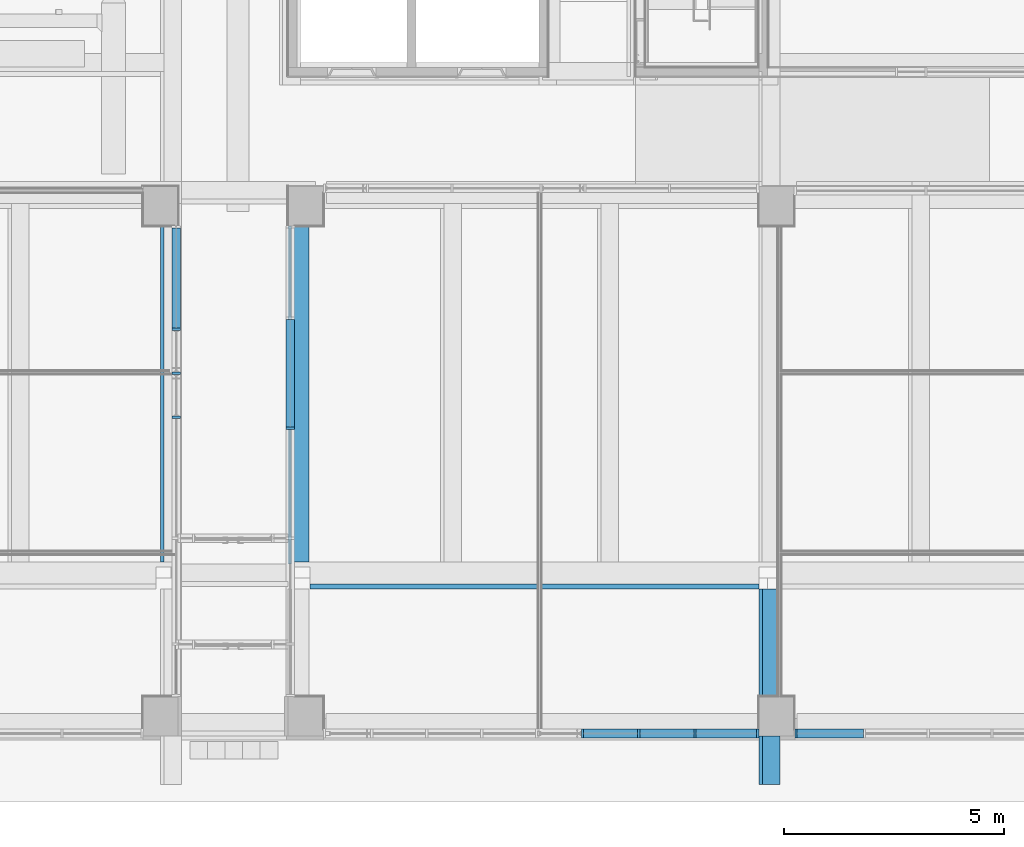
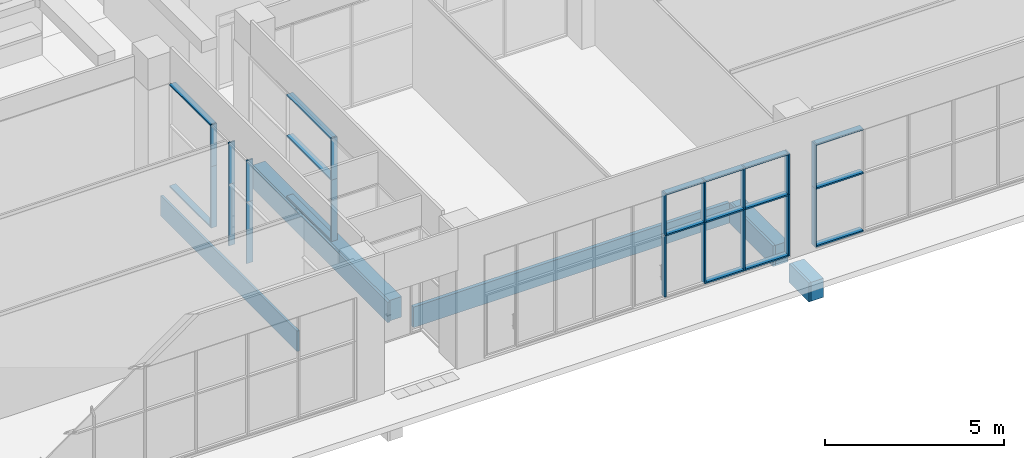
# One storey, part 6 of 100: 34 members, 8 beams, 4 elements without a shape of their own.
"""IFC2X3 building model written with IfcOpenShell, lengths in millimetres."""

from ifc_helpers import new_model, entity, si_unit, converted_unit, derived_unit, direction, frame, frame_2d, origin, origin_2d_with_axis, place, context, subcontext, project, spatial, rectangle, extrude, source, transform, mapped, material, material_list, type_object, type_shapes, element, aggregate, save


model = new_model("IFC2X3")

# Units and contexts
model_context = context("Model", 3, precision=0.01, world=origin(), true_north=direction((6.123031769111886e-17, 1.0)))
body_context = subcontext(model_context, "Body", "Model", "MODEL_VIEW")
ifc_project = project(units=[si_unit("LENGTHUNIT", "METRE", prefix="MILLI"), si_unit("AREAUNIT", "SQUARE_METRE"), si_unit("VOLUMEUNIT", "CUBIC_METRE"), converted_unit("PLANEANGLEUNIT", "DEGREE", entity("IfcRatioMeasure", 0.017453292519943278), si_unit("PLANEANGLEUNIT", "RADIAN"), dimensions=[0, 0, 0, 0, 0, 0, 0]), si_unit("MASSUNIT", "GRAM", prefix="KILO"), derived_unit("MASSDENSITYUNIT", [(si_unit("MASSUNIT", "GRAM", prefix="KILO"), 1), (si_unit("LENGTHUNIT", "METRE"), -3)]), derived_unit("MOMENTOFINERTIAUNIT", [(si_unit("LENGTHUNIT", "METRE"), 4)]), si_unit("TIMEUNIT", "SECOND"), si_unit("FREQUENCYUNIT", "HERTZ"), si_unit("THERMODYNAMICTEMPERATUREUNIT", "DEGREE_CELSIUS"), derived_unit("THERMALTRANSMITTANCEUNIT", [(si_unit("MASSUNIT", "GRAM", prefix="KILO"), 1), (si_unit("THERMODYNAMICTEMPERATUREUNIT", "KELVIN"), -1), (si_unit("TIMEUNIT", "SECOND"), -3)]), derived_unit("VOLUMETRICFLOWRATEUNIT", [(si_unit("LENGTHUNIT", "METRE"), 3), (si_unit("TIMEUNIT", "SECOND"), -1)]), derived_unit("MASSFLOWRATEUNIT", [(si_unit("MASSUNIT", "GRAM", prefix="KILO"), 1), (si_unit("TIMEUNIT", "SECOND"), -1)]), derived_unit("ROTATIONALFREQUENCYUNIT", [(si_unit("TIMEUNIT", "SECOND"), -1)]), si_unit("ELECTRICCURRENTUNIT", "AMPERE"), si_unit("ELECTRICVOLTAGEUNIT", "VOLT"), si_unit("POWERUNIT", "WATT"), si_unit("FORCEUNIT", "NEWTON", prefix="KILO"), si_unit("ILLUMINANCEUNIT", "LUX"), si_unit("LUMINOUSFLUXUNIT", "LUMEN"), si_unit("LUMINOUSINTENSITYUNIT", "CANDELA"), derived_unit("USERDEFINED", [(si_unit("MASSUNIT", "GRAM", prefix="KILO"), -1), (si_unit("LENGTHUNIT", "METRE"), -2), (si_unit("TIMEUNIT", "SECOND"), 3), (si_unit("LUMINOUSFLUXUNIT", "LUMEN"), 1)]), derived_unit("SOUNDPOWERUNIT", [(si_unit("MASSUNIT", "GRAM", prefix="KILO"), 1), (si_unit("LENGTHUNIT", "METRE"), 2), (si_unit("TIMEUNIT", "SECOND"), -3)]), derived_unit("SOUNDPRESSUREUNIT", [(si_unit("MASSUNIT", "GRAM", prefix="KILO"), 1), (si_unit("LENGTHUNIT", "METRE"), -1), (si_unit("TIMEUNIT", "SECOND"), -2)]), derived_unit("LINEARVELOCITYUNIT", [(si_unit("LENGTHUNIT", "METRE"), 1), (si_unit("TIMEUNIT", "SECOND"), -1)]), si_unit("PRESSUREUNIT", "PASCAL"), derived_unit("USERDEFINED", [(si_unit("LENGTHUNIT", "METRE"), -2), (si_unit("MASSUNIT", "GRAM", prefix="KILO"), 1), (si_unit("TIMEUNIT", "SECOND"), -2)]), derived_unit("LINEARFORCEUNIT", [(si_unit("MASSUNIT", "GRAM", prefix="KILO"), 1), (si_unit("LENGTHUNIT", "METRE"), 1), (si_unit("TIMEUNIT", "SECOND"), -2), (si_unit("LENGTHUNIT", "METRE"), -1)]), derived_unit("PLANARFORCEUNIT", [(si_unit("MASSUNIT", "GRAM", prefix="KILO"), 1), (si_unit("LENGTHUNIT", "METRE"), 1), (si_unit("TIMEUNIT", "SECOND"), -2), (si_unit("LENGTHUNIT", "METRE"), -2)])], contexts=[model_context])

# Site, building, storey
site_placement = place(None, frame((-14167.972527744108, -657.2125860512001, 0.0)))
site = spatial("IfcSite", under=ifc_project, at=site_placement, Name="Default", CompositionType="ELEMENT")
building_placement = place(site_placement, origin())
building = spatial("IfcBuilding", under=site, at=building_placement, Name="Sample Building", CompositionType="ELEMENT")
storey_placement = place(building_placement, origin())
storey = spatial("IfcBuildingStorey", under=building, at=storey_placement, Name="지상 1층", CompositionType="ELEMENT", Elevation=0.0)

# Curtain wall, members
curtain_wall_type = type_object("IfcCurtainWallType", Name="커튼월:CW112-스테인리스 스틸 커튼월", PredefinedType="NOTDEFINED")
curtain_wall_1_placement = place(storey_placement, origin())
curtain_wall_1 = element("IfcCurtainWall", 1, at=curtain_wall_1_placement, inside=storey, type_object=curtain_wall_type, Name="커튼월:CW112-스테인리스 스틸 커튼월", ObjectType="커튼월:CW112-스테인리스 스틸 커튼월")
ifc_material_1 = material(Name="<Unnamed>")
member_type_1 = type_object("IfcMemberType", Name="직사각형 멀리언:CW200-직사각형 멀리언 50x200mm", PredefinedType="MULLION", material=ifc_material_1)
shared_shape_1 = source(origin(), body_context, "Body", "SweptSolid", [
    extrude(rectangle(XDim=200.0, YDim=50.0, at=origin_2d_with_axis()), frame((0.0, 0.0, -2100.0), z_axis=(0.0, 0.0, 1.0), x_axis=(0.0, -1.0, 0.0)), (0.0, 0.0, 1.0), 2100.0),
])
type_shapes(member_type_1, [shared_shape_1])
member_1_placement = place(curtain_wall_1_placement, frame((36757.972491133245, 619.7122951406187, 80.0), z_axis=(0.0, 0.0, -1.0), x_axis=(1.0, 0.0, 0.0)))
member_1 = element("IfcMember", 2, at=member_1_placement, type_object=member_type_1, material=ifc_material_1, Name="직사각형 멀리언:CW200-직사각형 멀리언 50x200mm", ObjectType="직사각형 멀리언:CW200-직사각형 멀리언 50x200mm", context=body_context, shape_type="MappedRepresentation", body=[
    mapped(shared_shape_1, transform((0.0, 0.0, 0.0), scale=1.0)),
])
member_2_placement = place(curtain_wall_1_placement, frame((38037.972491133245, 619.7122951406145, 80.0), z_axis=(0.0, 0.0, -1.0), x_axis=(1.0, 0.0, 0.0)))
member_2 = element("IfcMember", 3, at=member_2_placement, type_object=member_type_1, material=ifc_material_1, Name="직사각형 멀리언:CW200-직사각형 멀리언 50x200mm", ObjectType="직사각형 멀리언:CW200-직사각형 멀리언 50x200mm", context=body_context, shape_type="MappedRepresentation", body=[
    mapped(shared_shape_1, transform((0.0, 0.0, 0.0), scale=1.0)),
])
member_3_placement = place(curtain_wall_1_placement, frame((39317.972491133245, 619.7122951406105, 80.0), z_axis=(0.0, 0.0, -1.0), x_axis=(1.0, 0.0, 0.0)))
member_3 = element("IfcMember", 4, at=member_3_placement, type_object=member_type_1, material=ifc_material_1, Name="직사각형 멀리언:CW200-직사각형 멀리언 50x200mm", ObjectType="직사각형 멀리언:CW200-직사각형 멀리언 50x200mm", context=body_context, shape_type="MappedRepresentation", body=[
    mapped(shared_shape_1, transform((0.0, 0.0, 0.0), scale=1.0)),
])

curtain_wall_2_placement = place(storey_placement, origin())
curtain_wall_2 = element("IfcCurtainWall", 5, at=curtain_wall_2_placement, inside=storey, type_object=curtain_wall_type, Name="커튼월:CW112-스테인리스 스틸 커튼월", ObjectType="커튼월:CW112-스테인리스 스틸 커튼월")
member_4_placement = place(curtain_wall_2_placement, frame((27522.95514177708, 9807.21233073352, 80.0), z_axis=(0.0, 0.0, -1.0), x_axis=(0.0, 1.0, 0.0)))
member_4 = element("IfcMember", 6, at=member_4_placement, type_object=member_type_1, material=ifc_material_1, Name="직사각형 멀리언:CW200-직사각형 멀리언 50x200mm", ObjectType="직사각형 멀리언:CW200-직사각형 멀리언 50x200mm", context=body_context, shape_type="MappedRepresentation", body=[
    mapped(shared_shape_1, transform((0.0, 0.0, 0.0), scale=1.0)),
])
member_5_placement = place(curtain_wall_2_placement, frame((27522.955141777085, 7807.212330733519, 80.0), z_axis=(0.0, 0.0, -1.0), x_axis=(0.0, 1.0, 0.0)))
member_5 = element("IfcMember", 7, at=member_5_placement, type_object=member_type_1, material=ifc_material_1, Name="직사각형 멀리언:CW200-직사각형 멀리언 50x200mm", ObjectType="직사각형 멀리언:CW200-직사각형 멀리언 50x200mm", context=body_context, shape_type="MappedRepresentation", body=[
    mapped(shared_shape_1, transform((0.0, 0.0, 0.0), scale=1.0)),
])

# Curtain wall, member
curtain_wall_3_placement = place(storey_placement, origin())
curtain_wall_3 = element("IfcCurtainWall", 8, at=curtain_wall_3_placement, inside=storey, type_object=curtain_wall_type, Name="커튼월:CW112-스테인리스 스틸 커튼월", ObjectType="커튼월:CW112-스테인리스 스틸 커튼월")
member_6_placement = place(curtain_wall_3_placement, frame((30112.97249113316, 7557.212330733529, 80.0), z_axis=(0.0, 0.0, -1.0), x_axis=(0.0, -1.0, 0.0)))
member_6 = element("IfcMember", 9, at=member_6_placement, type_object=member_type_1, material=ifc_material_1, Name="직사각형 멀리언:CW200-직사각형 멀리언 50x200mm", ObjectType="직사각형 멀리언:CW200-직사각형 멀리언 50x200mm", context=body_context, shape_type="MappedRepresentation", body=[
    mapped(shared_shape_1, transform((0.0, 0.0, 0.0), scale=1.0)),
])

# Member
member_type_2 = type_object("IfcMemberType", Name="직사각형 멀리언:CW200-직사각형 멀리언 50x200mm", PredefinedType="MULLION", material=ifc_material_1)
shared_shape_2 = source(origin(), body_context, "Body", "SweptSolid", [
    extrude(rectangle(XDim=200.0, YDim=50.0, at=origin_2d_with_axis()), frame((-25.0, 0.0, -1420.0), z_axis=(0.0, 0.0, 1.0), x_axis=(0.0, -1.0, 0.0)), (0.0, 0.0, 1.0), 1420.0000000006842),
])
type_shapes(member_type_2, [shared_shape_2])
member_7_placement = place(curtain_wall_1_placement, frame((40767.97249113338, 619.7122951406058, 2180.0), z_axis=(0.0, 0.0, -1.0), x_axis=(1.0, 0.0, 0.0)))
member_7 = element("IfcMember", 10, at=member_7_placement, type_object=member_type_2, material=ifc_material_1, Name="직사각형 멀리언:CW200-직사각형 멀리언 50x200mm", ObjectType="직사각형 멀리언:CW200-직사각형 멀리언 50x200mm", context=body_context, shape_type="MappedRepresentation", body=[
    mapped(shared_shape_2, transform((0.0, 0.0, 0.0), scale=1.0)),
])

member_type_3 = type_object("IfcMemberType", Name="직사각형 멀리언:CW200-직사각형 멀리언 50x200mm", PredefinedType="MULLION", material=ifc_material_1)
shared_shape_3 = source(origin(), body_context, "Body", "SweptSolid", [
    extrude(rectangle(XDim=200.0, YDim=50.0, at=origin_2d_with_axis()), frame((0.0, 0.0, -1420.0), z_axis=(0.0, 0.0, 1.0), x_axis=(0.0, -1.0, 0.0)), (0.0, 0.0, 1.0), 1420.0000000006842),
])
type_shapes(member_type_3, [shared_shape_3])
member_8_placement = place(curtain_wall_1_placement, frame((36757.972491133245, 619.7122951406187, 2180.0), z_axis=(0.0, 0.0, -1.0), x_axis=(1.0, 0.0, 0.0)))
member_8 = element("IfcMember", 11, at=member_8_placement, type_object=member_type_3, material=ifc_material_1, Name="직사각형 멀리언:CW200-직사각형 멀리언 50x200mm", ObjectType="직사각형 멀리언:CW200-직사각형 멀리언 50x200mm", context=body_context, shape_type="MappedRepresentation", body=[
    mapped(shared_shape_3, transform((0.0, 0.0, 0.0), scale=1.0)),
])

member_9_placement = place(curtain_wall_1_placement, frame((38037.972491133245, 619.7122951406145, 2180.0), z_axis=(0.0, 0.0, -1.0), x_axis=(1.0, 0.0, 0.0)))
member_9 = element("IfcMember", 12, at=member_9_placement, type_object=member_type_3, material=ifc_material_1, Name="직사각형 멀리언:CW200-직사각형 멀리언 50x200mm", ObjectType="직사각형 멀리언:CW200-직사각형 멀리언 50x200mm", context=body_context, shape_type="MappedRepresentation", body=[
    mapped(shared_shape_3, transform((0.0, 0.0, 0.0), scale=1.0)),
])

member_10_placement = place(curtain_wall_1_placement, frame((39317.972491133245, 619.7122951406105, 2180.0), z_axis=(0.0, 0.0, -1.0), x_axis=(1.0, 0.0, 0.0)))
member_10 = element("IfcMember", 13, at=member_10_placement, type_object=member_type_3, material=ifc_material_1, Name="직사각형 멀리언:CW200-직사각형 멀리언 50x200mm", ObjectType="직사각형 멀리언:CW200-직사각형 멀리언 50x200mm", context=body_context, shape_type="MappedRepresentation", body=[
    mapped(shared_shape_3, transform((0.0, 0.0, 0.0), scale=1.0)),
])

member_11_placement = place(curtain_wall_2_placement, frame((27522.955141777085, 7807.212330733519, 2180.0), z_axis=(0.0, 0.0, -1.0), x_axis=(0.0, 1.0, 0.0)))
member_11 = element("IfcMember", 14, at=member_11_placement, type_object=member_type_3, material=ifc_material_1, Name="직사각형 멀리언:CW200-직사각형 멀리언 50x200mm", ObjectType="직사각형 멀리언:CW200-직사각형 멀리언 50x200mm", context=body_context, shape_type="MappedRepresentation", body=[
    mapped(shared_shape_3, transform((0.0, 0.0, 0.0), scale=1.0)),
])

member_12_placement = place(curtain_wall_2_placement, frame((27522.95514177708, 8807.212330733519, 2180.0), z_axis=(0.0, 0.0, -1.0), x_axis=(0.0, 1.0, 0.0)))
member_12 = element("IfcMember", 15, at=member_12_placement, type_object=member_type_3, material=ifc_material_1, Name="직사각형 멀리언:CW200-직사각형 멀리언 50x200mm", ObjectType="직사각형 멀리언:CW200-직사각형 멀리언 50x200mm", context=body_context, shape_type="MappedRepresentation", body=[
    mapped(shared_shape_3, transform((0.0, 0.0, 0.0), scale=1.0)),
])

member_13_placement = place(curtain_wall_2_placement, frame((27522.95514177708, 9807.21233073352, 2180.0), z_axis=(0.0, 0.0, -1.0), x_axis=(0.0, 1.0, 0.0)))
member_13 = element("IfcMember", 16, at=member_13_placement, type_object=member_type_3, material=ifc_material_1, Name="직사각형 멀리언:CW200-직사각형 멀리언 50x200mm", ObjectType="직사각형 멀리언:CW200-직사각형 멀리언 50x200mm", context=body_context, shape_type="MappedRepresentation", body=[
    mapped(shared_shape_3, transform((0.0, 0.0, 0.0), scale=1.0)),
])

member_14_placement = place(curtain_wall_3_placement, frame((30112.97249113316, 7557.212330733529, 2180.0), z_axis=(0.0, 0.0, -1.0), x_axis=(0.0, -1.0, 0.0)))
member_14 = element("IfcMember", 17, at=member_14_placement, type_object=member_type_3, material=ifc_material_1, Name="직사각형 멀리언:CW200-직사각형 멀리언 50x200mm", ObjectType="직사각형 멀리언:CW200-직사각형 멀리언 50x200mm", context=body_context, shape_type="MappedRepresentation", body=[
    mapped(shared_shape_3, transform((0.0, 0.0, 0.0), scale=1.0)),
])

member_type_4 = type_object("IfcMemberType", Name="직사각형 멀리언:CW200-직사각형 멀리언 50x200mm", PredefinedType="MULLION", material=ifc_material_1)
shared_shape_4 = source(origin(), body_context, "Body", "SweptSolid", [
    extrude(rectangle(XDim=200.0, YDim=50.0, at=origin_2d_with_axis()), frame((-25.0, 0.0, -2274.9999772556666), z_axis=(0.0, 0.0, 1.0), x_axis=(0.0, -1.0, 0.0)), (0.0, 0.0, 1.0), 2274.999977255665),
])
type_shapes(member_type_4, [shared_shape_4])
member_15_placement = place(curtain_wall_2_placement, frame((27522.955141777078, 12107.212617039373, 3600.0), z_axis=(0.0, 1.0, 0.0), x_axis=(0.0, 0.0, 1.0)))
member_15 = element("IfcMember", 18, at=member_15_placement, type_object=member_type_4, material=ifc_material_1, Name="직사각형 멀리언:CW200-직사각형 멀리언 50x200mm", ObjectType="직사각형 멀리언:CW200-직사각형 멀리언 50x200mm", context=body_context, shape_type="MappedRepresentation", body=[
    mapped(shared_shape_4, transform((0.0, 0.0, 0.0), scale=1.0)),
])

member_type_5 = type_object("IfcMemberType", Name="직사각형 멀리언:CW200-직사각형 멀리언 50x200mm", PredefinedType="MULLION", material=ifc_material_1)
shared_shape_5 = source(origin(), body_context, "Body", "SweptSolid", [
    extrude(rectangle(XDim=200.0, YDim=50.0, at=origin_2d_with_axis()), frame((-25.0, 0.0, -2100.0), z_axis=(0.0, 0.0, 1.0), x_axis=(0.0, -1.0, 0.0)), (0.0, 0.0, 1.0), 2100.0),
])
type_shapes(member_type_5, [shared_shape_5])
member_16_placement = place(curtain_wall_1_placement, frame((40767.97249113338, 619.7122951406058, 80.0), z_axis=(0.0, 0.0, -1.0), x_axis=(1.0, 0.0, 0.0)))
member_16 = element("IfcMember", 19, at=member_16_placement, type_object=member_type_5, material=ifc_material_1, Name="직사각형 멀리언:CW200-직사각형 멀리언 50x200mm", ObjectType="직사각형 멀리언:CW200-직사각형 멀리언 50x200mm", context=body_context, shape_type="MappedRepresentation", body=[
    mapped(shared_shape_5, transform((0.0, 0.0, 0.0), scale=1.0)),
])

member_type_6 = type_object("IfcMemberType", Name="직사각형 멀리언:CW200-직사각형 멀리언 50x200mm", PredefinedType="MULLION", material=ifc_material_1)
shared_shape_6 = source(origin(), body_context, "Body", "SweptSolid", [
    extrude(rectangle(XDim=200.0, YDim=50.0, at=origin_2d_with_axis()), frame((-25.0, 0.0, -2274.9999772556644), z_axis=(0.0, 0.0, 1.0), x_axis=(0.0, -1.0, 0.0)), (0.0, 0.0, 1.0), 2274.9999772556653),
])
type_shapes(member_type_6, [shared_shape_6])
member_17_placement = place(curtain_wall_2_placement, frame((27522.95514177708, 9832.21233073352, 80.0), z_axis=(0.0, -1.0, 0.0), x_axis=(0.0, 0.0, -1.0)))
member_17 = element("IfcMember", 20, at=member_17_placement, type_object=member_type_6, material=ifc_material_1, Name="직사각형 멀리언:CW200-직사각형 멀리언 50x200mm", ObjectType="직사각형 멀리언:CW200-직사각형 멀리언 50x200mm", context=body_context, shape_type="MappedRepresentation", body=[
    mapped(shared_shape_6, transform((0.0, 0.0, 0.0), scale=1.0)),
])

# Curtain wall, members
curtain_wall_4_placement = place(storey_placement, origin())
curtain_wall_4 = element("IfcCurtainWall", 21, at=curtain_wall_4_placement, inside=storey, type_object=curtain_wall_type, Name="커튼월:CW112-스테인리스 스틸 커튼월", ObjectType="커튼월:CW112-스테인리스 스틸 커튼월")
member_type_7 = type_object("IfcMemberType", Name="직사각형 멀리언:CW200-직사각형 멀리언 50x200mm", PredefinedType="MULLION", material=ifc_material_1)
shared_shape_7 = source(origin(), body_context, "Body", "SweptSolid", [
    extrude(rectangle(XDim=200.0, YDim=50.0, at=origin_2d_with_axis()), frame((-25.0, 0.0, -1520.0), z_axis=(0.0, 0.0, 1.0), x_axis=(0.0, -1.0, 0.0)), (0.0, 0.0, 1.0), 1520.0000000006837),
])
type_shapes(member_type_7, [shared_shape_7])
member_18_placement = place(curtain_wall_4_placement, frame((41585.972491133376, 619.7122951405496, 3600.0), z_axis=(0.0, 0.0, 1.0), x_axis=(-1.0, 0.0, 0.0)))
member_18 = element("IfcMember", 22, at=member_18_placement, type_object=member_type_7, material=ifc_material_1, Name="직사각형 멀리언:CW200-직사각형 멀리언 50x200mm", ObjectType="직사각형 멀리언:CW200-직사각형 멀리언 50x200mm", context=body_context, shape_type="MappedRepresentation", body=[
    mapped(shared_shape_7, transform((0.0, 0.0, 0.0), scale=1.0)),
])
member_type_8 = type_object("IfcMemberType", Name="직사각형 멀리언:CW200-직사각형 멀리언 50x200mm", PredefinedType="MULLION", material=ifc_material_1)
shared_shape_8 = source(origin(), body_context, "Body", "SweptSolid", [
    extrude(rectangle(XDim=200.0, YDim=50.0, at=origin_2d_with_axis()), frame((-25.0, 0.0, -2000.0), z_axis=(0.0, 0.0, 1.0), x_axis=(0.0, -1.0, 0.0)), (0.0, 0.0, 1.0), 1999.9999999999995),
])
type_shapes(member_type_8, [shared_shape_8])
member_19_placement = place(curtain_wall_4_placement, frame((41585.972491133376, 619.7122951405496, 2080.0), z_axis=(0.0, 0.0, 1.0), x_axis=(-1.0, 0.0, 0.0)))
member_19 = element("IfcMember", 23, at=member_19_placement, type_object=member_type_8, material=ifc_material_1, Name="직사각형 멀리언:CW200-직사각형 멀리언 50x200mm", ObjectType="직사각형 멀리언:CW200-직사각형 멀리언 50x200mm", context=body_context, shape_type="MappedRepresentation", body=[
    mapped(shared_shape_8, transform((0.0, 0.0, 0.0), scale=1.0)),
])

# Member
member_type_9 = type_object("IfcMemberType", Name="직사각형 멀리언:CW200-직사각형 멀리언 50x200mm", PredefinedType="MULLION", material=ifc_material_1)
shared_shape_9 = source(origin(), body_context, "Body", "SweptSolid", [
    extrude(rectangle(XDim=200.0, YDim=50.0, at=origin_2d_with_axis()), frame((-25.0, 0.0, -1375.0), z_axis=(0.0, 0.0, 1.0), x_axis=(0.0, -1.0, 0.0)), (0.0, 0.0, 1.0), 1375.0000000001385),
])
type_shapes(member_type_9, [shared_shape_9])
member_20_placement = place(curtain_wall_1_placement, frame((40717.97249113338, 619.7122951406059, 3600.0), z_axis=(1.0, 0.0, 0.0), x_axis=(0.0, 0.0, 1.0)))
member_20 = element("IfcMember", 24, at=member_20_placement, type_object=member_type_9, material=ifc_material_1, Name="직사각형 멀리언:CW200-직사각형 멀리언 50x200mm", ObjectType="직사각형 멀리언:CW200-직사각형 멀리언 50x200mm", context=body_context, shape_type="MappedRepresentation", body=[
    mapped(shared_shape_9, transform((0.0, 0.0, 0.0), scale=1.0)),
])

member_type_10 = type_object("IfcMemberType", Name="직사각형 멀리언:CW200-직사각형 멀리언 50x200mm", PredefinedType="MULLION", material=ifc_material_1)
shared_shape_10 = source(origin(), body_context, "Body", "SweptSolid", [
    extrude(rectangle(XDim=200.0, YDim=50.0, at=origin_2d_with_axis()), frame((-25.0, 0.0, -1230.0), z_axis=(0.0, 0.0, 1.0), x_axis=(0.0, -1.0, 0.0)), (0.0, 0.0, 1.0), 1229.9999999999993),
])
type_shapes(member_type_10, [shared_shape_10])
member_21_placement = place(curtain_wall_1_placement, frame((38062.97249113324, 619.7122951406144, 80.0), z_axis=(-1.0, 0.0, 0.0), x_axis=(0.0, 0.0, -1.0)))
member_21 = element("IfcMember", 25, at=member_21_placement, type_object=member_type_10, material=ifc_material_1, Name="직사각형 멀리언:CW200-직사각형 멀리언 50x200mm", ObjectType="직사각형 멀리언:CW200-직사각형 멀리언 50x200mm", context=body_context, shape_type="MappedRepresentation", body=[
    mapped(shared_shape_10, transform((0.0, 0.0, 0.0), scale=1.0)),
])

member_type_11 = type_object("IfcMemberType", Name="직사각형 멀리언:CW200-직사각형 멀리언 50x200mm", PredefinedType="MULLION", material=ifc_material_1)
shared_shape_11 = source(origin(), body_context, "Body", "SweptSolid", [
    extrude(rectangle(XDim=200.0, YDim=50.0, at=origin_2d_with_axis()), frame((0.0, 0.0, -1230.0), z_axis=(0.0, 0.0, 1.0), x_axis=(0.0, -1.0, 0.0)), (0.0, 0.0, 1.0), 1229.9999999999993),
])
type_shapes(member_type_11, [shared_shape_11])
member_22_placement = place(curtain_wall_1_placement, frame((38012.972491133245, 619.7122951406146, 2180.0), z_axis=(1.0, 0.0, 0.0), x_axis=(0.0, 0.0, 1.0)))
member_22 = element("IfcMember", 26, at=member_22_placement, type_object=member_type_11, material=ifc_material_1, Name="직사각형 멀리언:CW200-직사각형 멀리언 50x200mm", ObjectType="직사각형 멀리언:CW200-직사각형 멀리언 50x200mm", context=body_context, shape_type="MappedRepresentation", body=[
    mapped(shared_shape_11, transform((0.0, 0.0, 0.0), scale=1.0)),
])

member_23_placement = place(curtain_wall_1_placement, frame((39292.97249113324, 619.7122951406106, 2180.0), z_axis=(1.0, 0.0, 0.0), x_axis=(0.0, 0.0, 1.0)))
member_23 = element("IfcMember", 27, at=member_23_placement, type_object=member_type_11, material=ifc_material_1, Name="직사각형 멀리언:CW200-직사각형 멀리언 50x200mm", ObjectType="직사각형 멀리언:CW200-직사각형 멀리언 50x200mm", context=body_context, shape_type="MappedRepresentation", body=[
    mapped(shared_shape_11, transform((0.0, 0.0, 0.0), scale=1.0)),
])

member_type_12 = type_object("IfcMemberType", Name="직사각형 멀리언:CW200-직사각형 멀리언 50x200mm", PredefinedType="MULLION", material=ifc_material_1)
shared_shape_12 = source(origin(), body_context, "Body", "SweptSolid", [
    extrude(rectangle(XDim=200.0, YDim=50.0, at=origin_2d_with_axis()), frame((-25.0, 0.0, -1230.0), z_axis=(0.0, 0.0, 1.0), x_axis=(0.0, -1.0, 0.0)), (0.0, 0.0, 1.0), 1229.9999999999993),
])
type_shapes(member_type_12, [shared_shape_12])
member_24_placement = place(curtain_wall_1_placement, frame((38012.972491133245, 619.7122951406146, 3600.0), z_axis=(1.0, 0.0, 0.0), x_axis=(0.0, 0.0, 1.0)))
member_24 = element("IfcMember", 28, at=member_24_placement, type_object=member_type_12, material=ifc_material_1, Name="직사각형 멀리언:CW200-직사각형 멀리언 50x200mm", ObjectType="직사각형 멀리언:CW200-직사각형 멀리언 50x200mm", context=body_context, shape_type="MappedRepresentation", body=[
    mapped(shared_shape_12, transform((0.0, 0.0, 0.0), scale=1.0)),
])

member_25_placement = place(curtain_wall_1_placement, frame((39292.97249113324, 619.7122951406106, 3600.0), z_axis=(1.0, 0.0, 0.0), x_axis=(0.0, 0.0, 1.0)))
member_25 = element("IfcMember", 29, at=member_25_placement, type_object=member_type_12, material=ifc_material_1, Name="직사각형 멀리언:CW200-직사각형 멀리언 50x200mm", ObjectType="직사각형 멀리언:CW200-직사각형 멀리언 50x200mm", context=body_context, shape_type="MappedRepresentation", body=[
    mapped(shared_shape_12, transform((0.0, 0.0, 0.0), scale=1.0)),
])

member_type_13 = type_object("IfcMemberType", Name="직사각형 멀리언:CW200-직사각형 멀리언 50x200mm", PredefinedType="MULLION", material=ifc_material_1)
shared_shape_13 = source(origin(), body_context, "Body", "SweptSolid", [
    extrude(rectangle(XDim=200.0, YDim=50.0, at=origin_2d_with_axis()), frame((-25.0, 0.0, -1375.0), z_axis=(0.0, 0.0, 1.0), x_axis=(0.0, -1.0, 0.0)), (0.0, 0.0, 1.0), 1375.0000000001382),
])
type_shapes(member_type_13, [shared_shape_13])
member_26_placement = place(curtain_wall_1_placement, frame((39342.972491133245, 619.7122951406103, 80.0), z_axis=(-1.0, 0.0, 0.0), x_axis=(0.0, 0.0, -1.0)))
member_26 = element("IfcMember", 30, at=member_26_placement, type_object=member_type_13, material=ifc_material_1, Name="직사각형 멀리언:CW200-직사각형 멀리언 50x200mm", ObjectType="직사각형 멀리언:CW200-직사각형 멀리언 50x200mm", context=body_context, shape_type="MappedRepresentation", body=[
    mapped(shared_shape_13, transform((0.0, 0.0, 0.0), scale=1.0)),
])

member_type_14 = type_object("IfcMemberType", Name="직사각형 멀리언:CW200-직사각형 멀리언 50x200mm", PredefinedType="MULLION", material=ifc_material_1)
shared_shape_14 = source(origin(), body_context, "Body", "SweptSolid", [
    extrude(rectangle(XDim=200.0, YDim=50.0, at=origin_2d_with_axis()), frame((0.0, 0.0, -1375.0), z_axis=(0.0, 0.0, 1.0), x_axis=(0.0, -1.0, 0.0)), (0.0, 0.0, 1.0), 1375.0000000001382),
])
type_shapes(member_type_14, [shared_shape_14])
member_27_placement = place(curtain_wall_1_placement, frame((40717.97249113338, 619.7122951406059, 2180.0), z_axis=(1.0, 0.0, 0.0), x_axis=(0.0, 0.0, 1.0)))
member_27 = element("IfcMember", 31, at=member_27_placement, type_object=member_type_14, material=ifc_material_1, Name="직사각형 멀리언:CW200-직사각형 멀리언 50x200mm", ObjectType="직사각형 멀리언:CW200-직사각형 멀리언 50x200mm", context=body_context, shape_type="MappedRepresentation", body=[
    mapped(shared_shape_14, transform((0.0, 0.0, 0.0), scale=1.0)),
])

aggregate(curtain_wall_1, [member_20, member_16, member_7, member_22, member_1, member_8, member_24, member_21, member_23, member_2, member_9, member_25, member_26, member_27, member_3, member_10])

member_type_15 = type_object("IfcMemberType", Name="직사각형 멀리언:CW200-직사각형 멀리언 50x200mm", PredefinedType="MULLION", material=ifc_material_1)
shared_shape_15 = source(origin(), body_context, "Body", "SweptSolid", [
    extrude(rectangle(XDim=200.0, YDim=50.0, at=origin_2d_with_axis()), frame((-25.0, 0.0, -1507.353807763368), z_axis=(0.0, 0.0, 1.0), x_axis=(0.0, -1.0, 0.0)), (0.0, 0.0, 1.0), 1507.353807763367),
])
type_shapes(member_type_15, [shared_shape_15])
member_28_placement = place(curtain_wall_4_placement, frame((41635.972491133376, 619.7122951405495, 80.0), z_axis=(-1.0, 0.0, 0.0), x_axis=(0.0, 0.0, -1.0)))
member_28 = element("IfcMember", 32, at=member_28_placement, type_object=member_type_15, material=ifc_material_1, Name="직사각형 멀리언:CW200-직사각형 멀리언 50x200mm", ObjectType="직사각형 멀리언:CW200-직사각형 멀리언 50x200mm", context=body_context, shape_type="MappedRepresentation", body=[
    mapped(shared_shape_15, transform((0.0, 0.0, 0.0), scale=1.0)),
])

member_type_16 = type_object("IfcMemberType", Name="직사각형 멀리언:CW200-직사각형 멀리언 50x200mm", PredefinedType="MULLION", material=ifc_material_1)
shared_shape_16 = source(origin(), body_context, "Body", "SweptSolid", [
    extrude(rectangle(XDim=200.0, YDim=50.0, at=origin_2d_with_axis()), frame((0.0, 0.0, -1507.3538077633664), z_axis=(0.0, 0.0, 1.0), x_axis=(0.0, -1.0, 0.0)), (0.0, 0.0, 1.0), 1507.3538077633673),
])
type_shapes(member_type_16, [shared_shape_16])
member_29_placement = place(curtain_wall_4_placement, frame((43143.32629889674, 619.7122951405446, 2080.0), z_axis=(1.0, 0.0, 0.0), x_axis=(0.0, 0.0, 1.0)))
member_29 = element("IfcMember", 33, at=member_29_placement, type_object=member_type_16, material=ifc_material_1, Name="직사각형 멀리언:CW200-직사각형 멀리언 50x200mm", ObjectType="직사각형 멀리언:CW200-직사각형 멀리언 50x200mm", context=body_context, shape_type="MappedRepresentation", body=[
    mapped(shared_shape_16, transform((0.0, 0.0, 0.0), scale=1.0)),
])

member_type_17 = type_object("IfcMemberType", Name="직사각형 멀리언:CW200-직사각형 멀리언 50x200mm", PredefinedType="MULLION", material=ifc_material_1)
shared_shape_17 = source(origin(), body_context, "Body", "SweptSolid", [
    extrude(rectangle(XDim=200.0, YDim=50.0, at=origin_2d_with_axis()), frame((-25.0, 0.0, -1507.3538077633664), z_axis=(0.0, 0.0, 1.0), x_axis=(0.0, -1.0, 0.0)), (0.0, 0.0, 1.0), 1507.3538077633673),
])
type_shapes(member_type_17, [shared_shape_17])
member_30_placement = place(curtain_wall_4_placement, frame((43143.32629889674, 619.7122951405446, 3600.0), z_axis=(1.0, 0.0, 0.0), x_axis=(0.0, 0.0, 1.0)))
member_30 = element("IfcMember", 34, at=member_30_placement, type_object=member_type_17, material=ifc_material_1, Name="직사각형 멀리언:CW200-직사각형 멀리언 50x200mm", ObjectType="직사각형 멀리언:CW200-직사각형 멀리언 50x200mm", context=body_context, shape_type="MappedRepresentation", body=[
    mapped(shared_shape_17, transform((0.0, 0.0, 0.0), scale=1.0)),
])

aggregate(curtain_wall_4, [member_28, member_18, member_19, member_29, member_30])

member_type_18 = type_object("IfcMemberType", Name="직사각형 멀리언:CW200-직사각형 멀리언 50x200mm", PredefinedType="MULLION", material=ifc_material_1)
shared_shape_18 = source(origin(), body_context, "Body", "SweptSolid", [
    extrude(rectangle(XDim=200.0, YDim=50.0, at=origin_2d_with_axis()), frame((0.0, 0.0, -2100.0), z_axis=(0.0, 0.0, 1.0), x_axis=(0.0, -1.0, 0.0)), (0.0, 0.0, 1.0), 2100.0),
])
type_shapes(member_type_18, [shared_shape_18])
member_31_placement = place(curtain_wall_2_placement, frame((27522.95514177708, 8807.21233073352, 80.0), z_axis=(0.0, 0.0, -1.0), x_axis=(0.0, 1.0, 0.0)))
member_31 = element("IfcMember", 35, at=member_31_placement, type_object=member_type_18, material=ifc_material_1, Name="직사각형 멀리언:CW200-직사각형 멀리언 50x200mm", ObjectType="직사각형 멀리언:CW200-직사각형 멀리언 50x200mm", context=body_context, shape_type="MappedRepresentation", body=[
    mapped(shared_shape_18, transform((0.0, 0.0, 0.0), scale=1.0)),
])

aggregate(curtain_wall_2, [member_15, member_17, member_4, member_5, member_11, member_12, member_13, member_31])

member_type_19 = type_object("IfcMemberType", Name="직사각형 멀리언:CW200-직사각형 멀리언 50x200mm", PredefinedType="MULLION", material=ifc_material_1)
shared_shape_19 = source(origin(), body_context, "Body", "SweptSolid", [
    extrude(rectangle(XDim=200.0, YDim=50.0, at=origin_2d_with_axis()), frame((-25.0, 0.0, -2450.0), z_axis=(0.0, 0.0, 1.0), x_axis=(0.0, -1.0, 0.0)), (0.0, 0.0, 1.0), 2449.9999999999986),
])
type_shapes(member_type_19, [shared_shape_19])
member_32_placement = place(curtain_wall_3_placement, frame((30112.97249113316, 7582.212330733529, 3600.0), z_axis=(0.0, -1.0, 0.0), x_axis=(0.0, 0.0, 1.0)))
member_32 = element("IfcMember", 36, at=member_32_placement, type_object=member_type_19, material=ifc_material_1, Name="직사각형 멀리언:CW200-직사각형 멀리언 50x200mm", ObjectType="직사각형 멀리언:CW200-직사각형 멀리언 50x200mm", context=body_context, shape_type="MappedRepresentation", body=[
    mapped(shared_shape_19, transform((0.0, 0.0, 0.0), scale=1.0)),
])

member_type_20 = type_object("IfcMemberType", Name="직사각형 멀리언:CW200-직사각형 멀리언 50x200mm", PredefinedType="MULLION", material=ifc_material_1)
shared_shape_20 = source(origin(), body_context, "Body", "SweptSolid", [
    extrude(rectangle(XDim=200.0, YDim=50.0, at=origin_2d_with_axis()), frame((-25.0, 0.0, -2450.0), z_axis=(0.0, 0.0, 1.0), x_axis=(0.0, -1.0, 0.0)), (0.0, 0.0, 1.0), 2450.000000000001),
])
type_shapes(member_type_20, [shared_shape_20])
member_33_placement = place(curtain_wall_3_placement, frame((30112.972491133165, 10032.21233073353, 80.0), z_axis=(0.0, 1.0, 0.0), x_axis=(0.0, 0.0, -1.0)))
member_33 = element("IfcMember", 37, at=member_33_placement, type_object=member_type_20, material=ifc_material_1, Name="직사각형 멀리언:CW200-직사각형 멀리언 50x200mm", ObjectType="직사각형 멀리언:CW200-직사각형 멀리언 50x200mm", context=body_context, shape_type="MappedRepresentation", body=[
    mapped(shared_shape_20, transform((0.0, 0.0, 0.0), scale=1.0)),
])

member_type_21 = type_object("IfcMemberType", Name="직사각형 멀리언:CW200-직사각형 멀리언 50x200mm", PredefinedType="MULLION", material=ifc_material_1)
shared_shape_21 = source(origin(), body_context, "Body", "SweptSolid", [
    extrude(rectangle(XDim=200.0, YDim=50.0, at=origin_2d_with_axis()), frame((0.0, 0.0, -2450.0), z_axis=(0.0, 0.0, 1.0), x_axis=(0.0, -1.0, 0.0)), (0.0, 0.0, 1.0), 2450.0000000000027),
])
type_shapes(member_type_21, [shared_shape_21])
member_34_placement = place(curtain_wall_3_placement, frame((30112.97249113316, 7582.212330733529, 2180.0), z_axis=(0.0, -1.0, 0.0), x_axis=(0.0, 0.0, 1.0)))
member_34 = element("IfcMember", 38, at=member_34_placement, type_object=member_type_21, material=ifc_material_1, Name="직사각형 멀리언:CW200-직사각형 멀리언 50x200mm", ObjectType="직사각형 멀리언:CW200-직사각형 멀리언 50x200mm", context=body_context, shape_type="MappedRepresentation", body=[
    mapped(shared_shape_21, transform((0.0, 0.0, 0.0), scale=1.0)),
])

aggregate(curtain_wall_3, [member_32, member_6, member_33, member_34, member_14])

# Beams
ifc_material_2 = material(Name="KBIMS-콘크리트")
beam_type_1 = type_object("IfcBeamType", Name="BM111-철근콘크리트구조 보:BM110-철근 콘크리트구조 보_400 x 850_B1-1G3", PredefinedType="NOTDEFINED")
beam_1_placement = place(storey_placement, frame((41043.608399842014, 1121.0766932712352, 0.0), z_axis=(0.0, 0.0, 1.0), x_axis=(0.0, 1.0, 0.0)))
element("IfcBeam", 39, at=beam_1_placement, inside=storey, type_object=beam_type_1, material=ifc_material_2, Name="BM111-철근콘크리트구조 보:BM110-철근 콘크리트구조 보_400 x 850_B1-1G3", ObjectType="BM111-철근콘크리트구조 보:BM110-철근 콘크리트구조 보_400 x 850_B1-1G3", context=body_context, shape_type="SweptSolid", body=[
    extrude(rectangle(XDim=700.0000000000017, YDim=400.0000000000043, at=frame_2d((0.0, -4.334310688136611e-12), x_axis=(1.0, 0.0))), frame((336.1355018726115, 0.0, -500.0), z_axis=(1.0, 0.0, 0.0), x_axis=(0.0, 0.0, -1.0)), (0.0, 0.0, 1.0), 2450.000496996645),
])
beam_2_placement = place(storey_placement, frame((41043.608399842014, 1983.7773700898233, 0.0), z_axis=(0.0, 0.0, 1.0), x_axis=(0.0, -1.0, 0.0)))
element("IfcBeam", 40, at=beam_2_placement, inside=storey, type_object=beam_type_1, material=ifc_material_2, Name="BM111-철근콘크리트구조 보:BM110-철근 콘크리트구조 보_400 x 850_B1-1G3", ObjectType="BM111-철근콘크리트구조 보:BM110-철근 콘크리트구조 보_400 x 850_B1-1G3", context=body_context, shape_type="SweptSolid", body=[
    extrude(rectangle(XDim=650.0000000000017, YDim=400.0000000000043, at=origin_2d_with_axis()), frame((1426.5647530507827, 0.0, -525.0), z_axis=(1.0, 0.0, 0.0), x_axis=(0.0, 0.0, -1.0)), (0.0, 0.0, 1.0), 1100.0003090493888),
])
beam_3_placement = place(storey_placement, frame((40968.30894954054, 1007.2121951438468, 0.0), z_axis=(0.0, 0.0, 1.0), x_axis=(0.0, 1.0, 0.0)))
element("IfcBeam", 41, at=beam_3_placement, inside=storey, type_object=beam_type_1, material=ifc_material_2, Name="BM111-철근콘크리트구조 보:BM110-철근 콘크리트구조 보_400 x 850_B1-1G3", ObjectType="BM111-철근콘크리트구조 보:BM110-철근 콘크리트구조 보_400 x 850_B1-1G3", context=body_context, shape_type="SweptSolid", body=[
    extrude(rectangle(XDim=700.0000000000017, YDim=75.29945030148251, at=origin_2d_with_axis()), frame((450.0, 162.35027484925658, -500.0), z_axis=(1.0, 0.0, 0.0), x_axis=(0.0, 0.0, -1.0)), (0.0, 0.0, 1.0), 2450.000496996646),
])
beam_4_placement = place(storey_placement, frame((40968.30894954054, 1869.9128719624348, 0.0), z_axis=(0.0, 0.0, 1.0), x_axis=(0.0, -1.0, 0.0)))
element("IfcBeam", 42, at=beam_4_placement, inside=storey, type_object=beam_type_1, material=ifc_material_2, Name="BM111-철근콘크리트구조 보:BM110-철근 콘크리트구조 보_400 x 850_B1-1G3", ObjectType="BM111-철근콘크리트구조 보:BM110-철근 콘크리트구조 보_400 x 850_B1-1G3", context=body_context, shape_type="SweptSolid", body=[
    extrude(rectangle(XDim=650.0000000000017, YDim=75.29945030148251, at=origin_2d_with_axis()), frame((1312.700676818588, -162.35027484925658, -525.0), z_axis=(1.0, 0.0, 0.0), x_axis=(0.0, 0.0, -1.0)), (0.0, 0.0, 1.0), 1099.9998871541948),
])
beam_type_2 = type_object("IfcBeamType", Name="BM111-철근콘크리트구조 보:BM110-철근 콘크리트구조 보_500 x 850_B1-1G5", PredefinedType="NOTDEFINED")
beam_5_placement = place(storey_placement, frame((30267.946448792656, 4157.2126921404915, 0.0)))
element("IfcBeam", 43, at=beam_5_placement, inside=storey, type_object=beam_type_2, material=ifc_material_2, Name="BM111-철근콘크리트구조 보:BM110-철근 콘크리트구조 보_500 x 850_B1-1G5", ObjectType="BM111-철근콘크리트구조 보:BM110-철근 콘크리트구조 보_500 x 850_B1-1G5", context=body_context, shape_type="SweptSolid", body=[
    extrude(rectangle(XDim=700.0000000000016, YDim=113.86449812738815, at=origin_2d_with_axis()), frame((300.0086655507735, -193.06775093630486, -500.0), z_axis=(1.0, 0.0, 0.0), x_axis=(0.0, 0.0, -1.0)), (0.0, 0.0, 1.0), 10200.00002743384),
])
ifc_material_list = material_list([ifc_material_2, ifc_material_2])
beam_type_3 = type_object("IfcBeamType", Name="BM111-철근콘크리트구조 보:BM110-철근 콘크리트구조 보_400 x 850_B1-1G2", PredefinedType="BEAM", material=ifc_material_list)
beam_6_placement = place(storey_placement, frame((30343.245899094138, 12721.077115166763, 0.0), z_axis=(0.0, 0.0, 1.0), x_axis=(0.0, -1.0, 0.0)))
element("IfcBeam", 44, at=beam_6_placement, inside=storey, type_object=beam_type_3, material=ifc_material_2, Name="BM111-철근콘크리트구조 보:BM110-철근 콘크리트구조 보_400 x 850_B1-1G2", ObjectType="BM111-철근콘크리트구조 보:BM110-철근 콘크리트구조 보_400 x 850_B1-1G2", context=body_context, shape_type="SweptSolid", body=[
    extrude(rectangle(XDim=700.0000000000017, YDim=400.0000000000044, at=origin_2d_with_axis()), frame((563.8644981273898, 0.0, -500.0), z_axis=(1.0, 0.0, 0.0), x_axis=(0.0, 0.0, -1.0)), (0.0, 0.0, 1.0), 7636.13542677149),
])
beam_7_placement = place(storey_placement, frame((27367.575255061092, 12607.212617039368, 0.0), z_axis=(0.0, 0.0, 1.0), x_axis=(0.0, -1.0, 0.0)))
element("IfcBeam", 45, at=beam_7_placement, inside=storey, type_object=beam_type_3, material=ifc_material_2, Name="BM111-철근콘크리트구조 보:BM110-철근 콘크리트구조 보_400 x 850_B1-1G2", ObjectType="BM111-철근콘크리트구조 보:BM110-철근 콘크리트구조 보_400 x 850_B1-1G2", context=body_context, shape_type="SweptSolid", body=[
    extrude(rectangle(XDim=700.0000000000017, YDim=75.29945030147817, at=frame_2d((0.0, -2.163602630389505e-12), x_axis=(1.0, 0.0))), frame((450.0, -162.35027484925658, -500.0), z_axis=(1.0, 0.0, 0.0), x_axis=(0.0, 0.0, -1.0)), (0.0, 0.0, 1.0), 7636.13542677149),
])
beam_8_placement = place(storey_placement, frame((30267.94644879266, 12607.212617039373, 0.0), z_axis=(0.0, 0.0, 1.0), x_axis=(0.0, -1.0, 0.0)))
element("IfcBeam", 46, at=beam_8_placement, inside=storey, type_object=beam_type_3, material=ifc_material_2, Name="BM111-철근콘크리트구조 보:BM110-철근 콘크리트구조 보_400 x 850_B1-1G2", ObjectType="BM111-철근콘크리트구조 보:BM110-철근 콘크리트구조 보_400 x 850_B1-1G2", context=body_context, shape_type="SweptSolid", body=[
    extrude(rectangle(XDim=700.0000000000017, YDim=75.2907573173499, at=frame_2d((0.0, 0.0021732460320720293), x_axis=(1.0, 0.0))), frame((450.0, -162.35244809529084, -500.0), z_axis=(1.0, 0.0, 0.0), x_axis=(0.0, 0.0, -1.0)), (0.0, 0.0, 1.0), 7686.135426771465),
])

save(model, "model.ifc")
